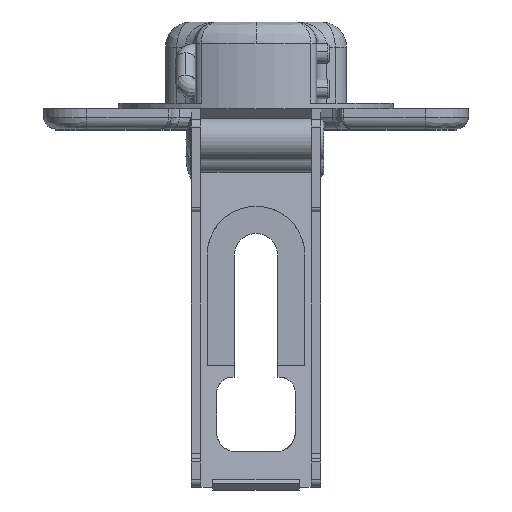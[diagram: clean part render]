
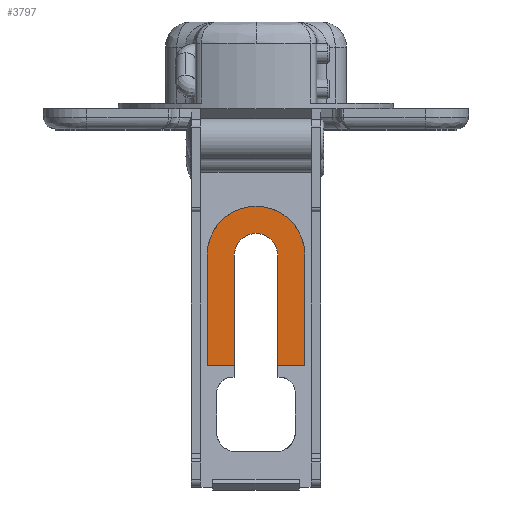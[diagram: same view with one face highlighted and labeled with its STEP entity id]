
A CAD part, front view. The second image highlights one B-rep face of the part: STEP entity #3797.
In plain terms, the highlighted planar face has unit normal (0, -1, 0).
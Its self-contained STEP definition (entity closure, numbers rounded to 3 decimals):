
#331 = EDGE_CURVE ( 'NONE', #6013, #5971, #16356, .T. ) ;
#447 = EDGE_CURVE ( 'NONE', #6008, #6013, #16644, .T. ) ;
#742 = EDGE_CURVE ( 'NONE', #23224, #23220, #16944, .T. ) ;
#802 = EDGE_CURVE ( 'NONE', #5977, #23209, #17161, .T. ) ;
#833 = EDGE_CURVE ( 'NONE', #23231, #23224, #17273, .T. ) ;
#834 = EDGE_CURVE ( 'NONE', #23209, #23231, #17259, .T. ) ;
#867 = EDGE_CURVE ( 'NONE', #23220, #6008, #11827, .T. ) ;
#920 = EDGE_CURVE ( 'NONE', #5971, #5977, #11923, .T. ) ;
#1038 = AXIS2_PLACEMENT_3D ( 'NONE', #13215, #13216, #13217 ) ;
#1154 = AXIS2_PLACEMENT_3D ( 'NONE', #14042, #14043, #14044 ) ;
#1373 = ORIENTED_EDGE ( 'NONE', *, *, #331, .F. ) ;
#1374 = ORIENTED_EDGE ( 'NONE', *, *, #447, .F. ) ;
#1375 = ORIENTED_EDGE ( 'NONE', *, *, #867, .F. ) ;
#1376 = ORIENTED_EDGE ( 'NONE', *, *, #742, .F. ) ;
#1377 = ORIENTED_EDGE ( 'NONE', *, *, #833, .F. ) ;
#1378 = ORIENTED_EDGE ( 'NONE', *, *, #834, .F. ) ;
#1379 = ORIENTED_EDGE ( 'NONE', *, *, #802, .F. ) ;
#1380 = ORIENTED_EDGE ( 'NONE', *, *, #920, .F. ) ;
#3607 = CARTESIAN_POINT ( 'NONE',  ( -6.2, -1.9, -37.068 ) ) ;
#3611 = PLANE ( 'NONE',  #5397 ) ;
#3613 = DIRECTION ( 'NONE',  ( 0., 1., 0. ) ) ;
#3614 = DIRECTION ( 'NONE',  ( 0., 0., 1. ) ) ;
#3797 = ADVANCED_FACE ( 'NONE', ( #12236 ), #3611, .F. ) ;
#4284 = CARTESIAN_POINT ( 'NONE',  ( -2.75, -1.9, -23. ) ) ;
#4290 = CARTESIAN_POINT ( 'NONE',  ( -2.75, -1.9, -37.068 ) ) ;
#4321 = CARTESIAN_POINT ( 'NONE',  ( 2.75, -1.9, -37.068 ) ) ;
#4326 = CARTESIAN_POINT ( 'NONE',  ( 2.75, -1.9, -23. ) ) ;
#5397 = AXIS2_PLACEMENT_3D ( 'NONE', #3607, #3613, #3614 ) ;
#5971 = VERTEX_POINT ( 'NONE', #4284 ) ;
#5977 = VERTEX_POINT ( 'NONE', #4290 ) ;
#6008 = VERTEX_POINT ( 'NONE', #4321 ) ;
#6013 = VERTEX_POINT ( 'NONE', #4326 ) ;
#11246 = CARTESIAN_POINT ( 'NONE',  ( 2.75, -1.9, -26.873 ) ) ;
#11256 = DIRECTION ( 'NONE',  ( 0., 0., 1. ) ) ;
#11827 = LINE ( 'NONE', #14110, #11833 ) ;
#11833 = VECTOR ( 'NONE', #14119, 1000. ) ;
#11923 = LINE ( 'NONE', #23891, #11926 ) ;
#11926 = VECTOR ( 'NONE', #23892, 1000. ) ;
#12236 = FACE_OUTER_BOUND ( 'NONE', #30457, .T. ) ;
#12929 = CARTESIAN_POINT ( 'NONE',  ( 6.2, -1.9, -26.873 ) ) ;
#12931 = DIRECTION ( 'NONE',  ( 0., 0., -1. ) ) ;
#13215 = CARTESIAN_POINT ( 'NONE',  ( 0., -1.9, -23. ) ) ;
#13216 = DIRECTION ( 'NONE',  ( 0., -1., 0. ) ) ;
#13217 = DIRECTION ( 'NONE',  ( -1., 0., 0. ) ) ;
#13943 = CARTESIAN_POINT ( 'NONE',  ( 0., -1.9, -37.068 ) ) ;
#13944 = DIRECTION ( 'NONE',  ( -1., 0., 0. ) ) ;
#14033 = DIRECTION ( 'NONE',  ( 0., 0., 1. ) ) ;
#14041 = CARTESIAN_POINT ( 'NONE',  ( -6.2, -1.9, -26.873 ) ) ;
#14042 = CARTESIAN_POINT ( 'NONE',  ( 0., -1.9, -23. ) ) ;
#14043 = DIRECTION ( 'NONE',  ( 0., 1., 0. ) ) ;
#14044 = DIRECTION ( 'NONE',  ( -1., 0., 0. ) ) ;
#14110 = CARTESIAN_POINT ( 'NONE',  ( 0., -1.9, -37.068 ) ) ;
#14119 = DIRECTION ( 'NONE',  ( -1., 0., 0. ) ) ;
#16356 = CIRCLE ( 'NONE', #1038, 2.75 ) ;
#16644 = LINE ( 'NONE', #11246, #16662 ) ;
#16662 = VECTOR ( 'NONE', #11256, 1000. ) ;
#16944 = LINE ( 'NONE', #12929, #16951 ) ;
#16951 = VECTOR ( 'NONE', #12931, 1000. ) ;
#17161 = LINE ( 'NONE', #13943, #17166 ) ;
#17166 = VECTOR ( 'NONE', #13944, 1000. ) ;
#17259 = LINE ( 'NONE', #14041, #17282 ) ;
#17273 = CIRCLE ( 'NONE', #1154, 6.2 ) ;
#17282 = VECTOR ( 'NONE', #14033, 1000. ) ;
#23209 = VERTEX_POINT ( 'NONE', #26258 ) ;
#23220 = VERTEX_POINT ( 'NONE', #26270 ) ;
#23224 = VERTEX_POINT ( 'NONE', #26274 ) ;
#23231 = VERTEX_POINT ( 'NONE', #26279 ) ;
#23891 = CARTESIAN_POINT ( 'NONE',  ( -2.75, -1.9, -26.873 ) ) ;
#23892 = DIRECTION ( 'NONE',  ( 0., 0., -1. ) ) ;
#26258 = CARTESIAN_POINT ( 'NONE',  ( -6.2, -1.9, -37.068 ) ) ;
#26270 = CARTESIAN_POINT ( 'NONE',  ( 6.2, -1.9, -37.068 ) ) ;
#26274 = CARTESIAN_POINT ( 'NONE',  ( 6.2, -1.9, -23. ) ) ;
#26279 = CARTESIAN_POINT ( 'NONE',  ( -6.2, -1.9, -23. ) ) ;
#30457 = EDGE_LOOP ( 'NONE', ( #1373, #1374, #1375, #1376, #1377, #1378, #1379, #1380 ) ) ;
